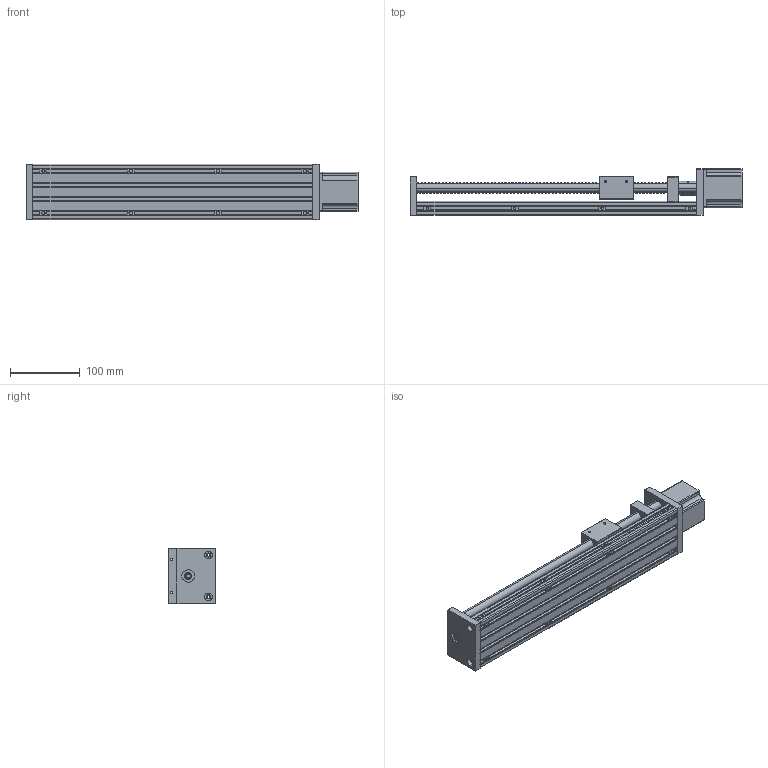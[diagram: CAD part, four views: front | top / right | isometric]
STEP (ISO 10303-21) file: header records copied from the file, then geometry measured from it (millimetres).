
FILE_DESCRIPTION (( 'STEP AP214' ), '1' );
FILE_NAME ('新80双光轴300.STEP', '2025-03-03T07:36:01', ( '微软用户' ), ( '微软中国' ), 'SwSTEP 2.0', 'SolidWorks 2018', '' );
FILE_SCHEMA (( 'AUTOMOTIVE_DESIGN' ));
Length unit declared in the file: millimetre
Products named in the file (14): 陔80邧嫖粣300; 賑輸; 萇雄儂嘐隅啣; M6蹟譫; 嫖粣210mm; 笢潔嘐隅啣; ヶ离嘐隅啣; 嫖粣410mm; 薊粣ん; M4蹟譫; 粣創; 2080臏倰第ㄗ400ㄘ; 萇雄儂56mm; 16佪話ㄗ460ㄘ
Assembly tree (28 placements, depth 2):
  陔80邧嫖粣300
    2080臏倰第ㄗ400ㄘ
    萇雄儂嘐隅啣
    嫖粣410mm
    嫖粣210mm
    賑輸
    16佪話ㄗ460ㄘ
    薊粣ん
    ヶ离嘐隅啣
    笢潔嘐隅啣
    粣創  x2
    萇雄儂56mm
    M6蹟譫  x8
    M4蹟譫  x8
Bounding box: 475.5 x 67 x 80.15 mm (x, y, z)
Volume: 771991.7 mm3; surface area: 401151.2 mm2
Topology: 28 solids, 28 shells, 1250 faces, 3494 edges, 2312 vertices
Faces by surface type: cylinder 700, plane 528, cone 20, bspline 2
Entity records: 53574 total; most frequent: CARTESIAN_POINT 28477, ORIENTED_EDGE 5136, DIRECTION 4892, EDGE_CURVE 2568, AXIS2_PLACEMENT_3D 1738, VERTEX_POINT 1700, VECTOR 1416, LINE 1416
